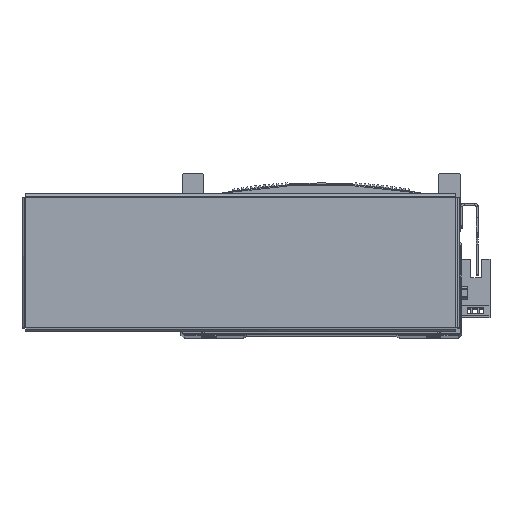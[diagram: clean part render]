
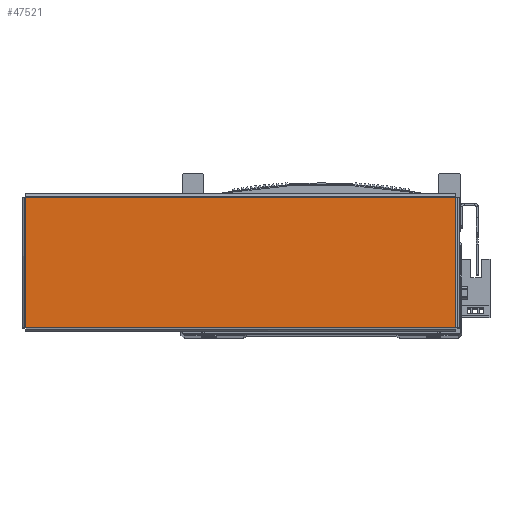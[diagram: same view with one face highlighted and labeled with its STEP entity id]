
A CAD part, top view. The second image highlights one B-rep face of the part: STEP entity #47521.
In plain terms, the highlighted planar face has unit normal (0, 0, 1) as drawn and (0, -1, 0) by its records, which use the part's own axes.
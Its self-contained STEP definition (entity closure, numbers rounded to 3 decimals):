
#1101 = DIRECTION ( 'NONE',  ( 1., 0., 0. ) ) ;
#1126 = CARTESIAN_POINT ( 'NONE',  ( -103.543, -1., -31.363 ) ) ;
#1132 = CARTESIAN_POINT ( 'NONE',  ( -103.513, -1., 31.393 ) ) ;
#1138 = CARTESIAN_POINT ( 'NONE',  ( 103.513, -1., -31.393 ) ) ;
#1156 = DIRECTION ( 'NONE',  ( 0., 0., 1. ) ) ;
#1158 = CARTESIAN_POINT ( 'NONE',  ( 103.543, -1., 31.363 ) ) ;
#1159 = DIRECTION ( 'NONE',  ( -1., 0., 0. ) ) ;
#1168 = DIRECTION ( 'NONE',  ( 0., 0., -1. ) ) ;
#5968 = CARTESIAN_POINT ( 'NONE',  ( 103.513, -1., -31.363 ) ) ;
#6022 = CARTESIAN_POINT ( 'NONE',  ( -103.513, -1., 31.363 ) ) ;
#10443 = CARTESIAN_POINT ( 'NONE',  ( 103.513, -1., 31.363 ) ) ;
#10474 = CARTESIAN_POINT ( 'NONE',  ( -103.513, -1., -31.363 ) ) ;
#16574 = VECTOR ( 'NONE', #1156, 1000. ) ;
#16632 = LINE ( 'NONE', #1132, #16662 ) ;
#16652 = VECTOR ( 'NONE', #1101, 1000. ) ;
#16657 = LINE ( 'NONE', #1126, #16652 ) ;
#16662 = VECTOR ( 'NONE', #1168, 1000. ) ;
#16666 = LINE ( 'NONE', #1138, #16574 ) ;
#16721 = LINE ( 'NONE', #1158, #16787 ) ;
#16787 = VECTOR ( 'NONE', #1159, 1000. ) ;
#29078 = PLANE ( 'NONE',  #70753 ) ;
#29089 = CARTESIAN_POINT ( 'NONE',  ( 0., -1., 0. ) ) ;
#29096 = DIRECTION ( 'NONE',  ( 0., 0., 1. ) ) ;
#29103 = DIRECTION ( 'NONE',  ( 0., 1., 0. ) ) ;
#33105 = FACE_OUTER_BOUND ( 'NONE', #54769, .T. ) ;
#38930 = EDGE_CURVE ( 'NONE', #65136, #67348, #16657, .T. ) ;
#38947 = EDGE_CURVE ( 'NONE', #67361, #65136, #16632, .T. ) ;
#38948 = EDGE_CURVE ( 'NONE', #67348, #65107, #16666, .T. ) ;
#38950 = EDGE_CURVE ( 'NONE', #65107, #67361, #16721, .T. ) ;
#47521 = ADVANCED_FACE ( 'NONE', ( #33105 ), #29078, .F. ) ;
#54769 = EDGE_LOOP ( 'NONE', ( #60184, #60086, #60098, #59964 ) ) ;
#59964 = ORIENTED_EDGE ( 'NONE', *, *, #38948, .T. ) ;
#60086 = ORIENTED_EDGE ( 'NONE', *, *, #38947, .T. ) ;
#60098 = ORIENTED_EDGE ( 'NONE', *, *, #38930, .T. ) ;
#60184 = ORIENTED_EDGE ( 'NONE', *, *, #38950, .T. ) ;
#65107 = VERTEX_POINT ( 'NONE', #10443 ) ;
#65136 = VERTEX_POINT ( 'NONE', #10474 ) ;
#67348 = VERTEX_POINT ( 'NONE', #5968 ) ;
#67361 = VERTEX_POINT ( 'NONE', #6022 ) ;
#70753 = AXIS2_PLACEMENT_3D ( 'NONE', #29089, #29103, #29096 ) ;
